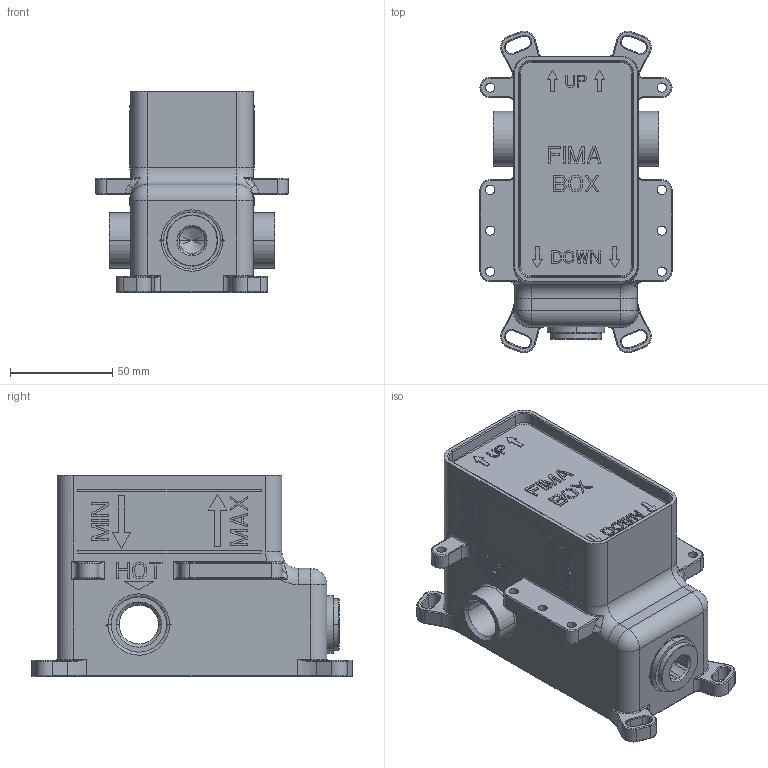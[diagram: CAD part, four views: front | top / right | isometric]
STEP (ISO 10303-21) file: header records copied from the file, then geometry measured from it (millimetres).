
FILE_DESCRIPTION((''),'2;1');
FILE_NAME('F3000','2012-10-01T',('ivanv'),(''),'PRO/ENGINEER BY PARAMETRIC TECHNOLOGY CORPORATION, 2011370','PRO/ENGINEER BY PARAMETRIC TECHNOLOGY CORPORATION, 2011370','');
FILE_SCHEMA(('CONFIG_CONTROL_DESIGN'));
Products named in the file (1): F3000
Bounding box: 94 x 157.49 x 98.5 mm (x, y, z)
Volume: 198118.9 mm3; surface area: 124898.1 mm2
Topology: 4 solids, 4 shells, 2782 faces, 7293 edges, 4541 vertices
Faces by surface type: plane 1201, cylinder 819, bspline 355, torus 293, cone 88, sphere 26
Entity records: 123876 total; most frequent: CARTESIAN_POINT 58281, ORIENTED_EDGE 14498, DIRECTION 12350, EDGE_CURVE 7249, VERTEX_POINT 4655, AXIS2_PLACEMENT_3D 4148, VECTOR 4054, LINE 4054
